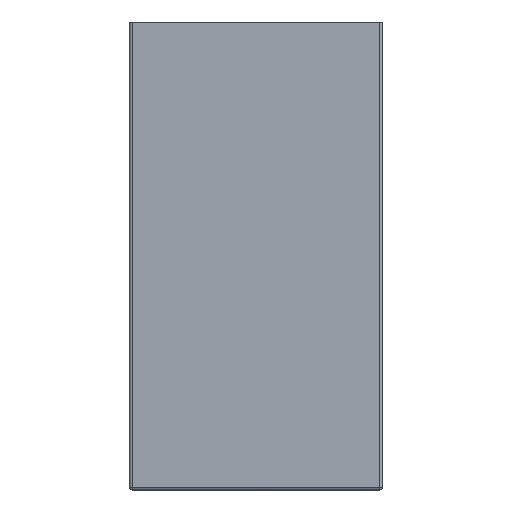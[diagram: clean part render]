
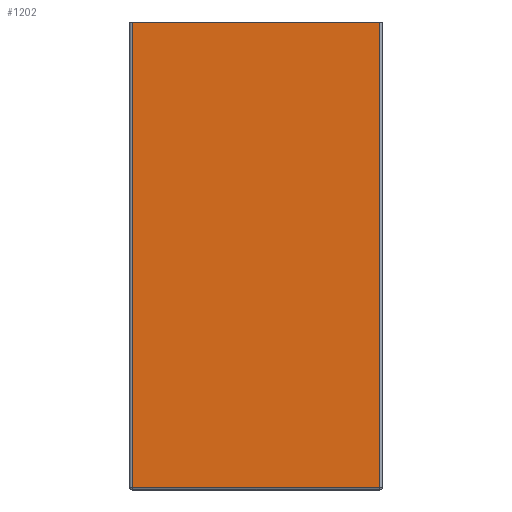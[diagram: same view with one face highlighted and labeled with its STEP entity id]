
A CAD part, left-side view. The second image highlights one B-rep face of the part: STEP entity #1202.
In plain terms, the highlighted planar face has unit normal (-1, 0, 0).
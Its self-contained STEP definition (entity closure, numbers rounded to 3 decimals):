
#1182=AXIS2_PLACEMENT_3D('Plane Axis2P3D',#1179,#1180,#1181) ;
#991=CARTESIAN_POINT('Vertex',(-1000.,-198.,370.)) ;
#1033=CARTESIAN_POINT('Vertex',(-1000.,-2.,370.)) ;
#1036=CARTESIAN_POINT('Line Origine',(-1000.,-100.,370.)) ;
#1112=CARTESIAN_POINT('Line Origine',(-1000.,-2.,185.)) ;
#1116=CARTESIAN_POINT('Vertex',(-1000.,-2.,2.)) ;
#1179=CARTESIAN_POINT('Axis2P3D Location',(-1000.,0.,0.)) ;
#1184=CARTESIAN_POINT('Line Origine',(-1000.,-100.,2.)) ;
#1188=CARTESIAN_POINT('Vertex',(-1000.,-198.,2.)) ;
#1191=CARTESIAN_POINT('Line Origine',(-1000.,-198.,186.)) ;
#1037=DIRECTION('Vector Direction',(0.,-1.,0.)) ;
#1113=DIRECTION('Vector Direction',(0.,0.,1.)) ;
#1180=DIRECTION('Axis2P3D Direction',(1.,0.,-0.)) ;
#1181=DIRECTION('Axis2P3D XDirection',(0.,0.,1.)) ;
#1185=DIRECTION('Vector Direction',(0.,1.,0.)) ;
#1192=DIRECTION('Vector Direction',(0.,0.,1.)) ;
#1038=VECTOR('Line Direction',#1037,1.) ;
#1114=VECTOR('Line Direction',#1113,1.) ;
#1186=VECTOR('Line Direction',#1185,1.) ;
#1193=VECTOR('Line Direction',#1192,1.) ;
#1197=ORIENTED_EDGE('',*,*,#1190,.T.) ;
#1198=ORIENTED_EDGE('',*,*,#1195,.T.) ;
#1199=ORIENTED_EDGE('',*,*,#1040,.F.) ;
#1200=ORIENTED_EDGE('',*,*,#1118,.F.) ;
#1202=ADVANCED_FACE('STRUTTURA',(#1201),#1183,.F.) ;
#1040=EDGE_CURVE('',#1034,#992,#1039,.T.) ;
#1118=EDGE_CURVE('',#1117,#1034,#1115,.T.) ;
#1190=EDGE_CURVE('',#1117,#1189,#1187,.F.) ;
#1195=EDGE_CURVE('',#1189,#992,#1194,.T.) ;
#1196=EDGE_LOOP('',(#1197,#1198,#1199,#1200)) ;
#1201=FACE_OUTER_BOUND('',#1196,.T.) ;
#1039=LINE('Line',#1036,#1038) ;
#1115=LINE('Line',#1112,#1114) ;
#1187=LINE('Line',#1184,#1186) ;
#1194=LINE('Line',#1191,#1193) ;
#1183=PLANE('Plane',#1182) ;
#992=VERTEX_POINT('',#991) ;
#1034=VERTEX_POINT('',#1033) ;
#1117=VERTEX_POINT('',#1116) ;
#1189=VERTEX_POINT('',#1188) ;
